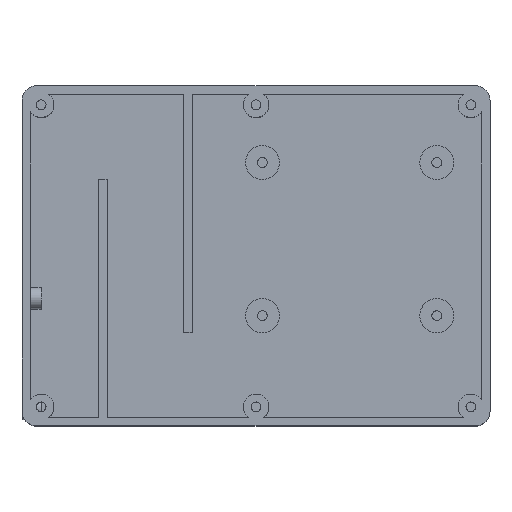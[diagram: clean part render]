
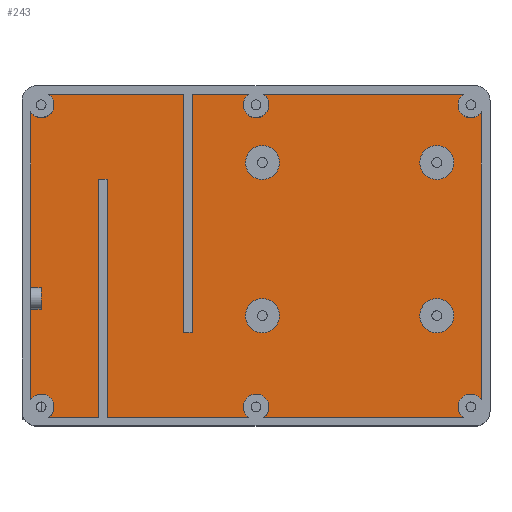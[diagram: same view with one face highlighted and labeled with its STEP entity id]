
A CAD part, top view. The second image highlights one B-rep face of the part: STEP entity #243.
In plain terms, the highlighted planar face has unit normal (0, 0, 1).
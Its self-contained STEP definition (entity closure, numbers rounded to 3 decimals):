
#190 = VERTEX_POINT('',#191);
#191 = CARTESIAN_POINT('',(4.,12.317,4.));
#197 = EDGE_CURVE('',#190,#198,#200,.T.);
#198 = VERTEX_POINT('',#199);
#199 = CARTESIAN_POINT('',(4.,147.683,4.));
#200 = LINE('',#201,#202);
#201 = CARTESIAN_POINT('',(4.,4.,4.));
#202 = VECTOR('',#203,1.);
#203 = DIRECTION('',(0.,1.,0.));
#243 = ADVANCED_FACE('',(#244,#439,#450,#461,#472),#483,.T.);
#244 = FACE_BOUND('',#245,.T.);
#245 = EDGE_LOOP('',(#246,#247,#256,#265,#273,#281,#289,#297,#305,#314,
    #323,#331,#340,#348,#357,#365,#374,#383,#391,#399,#407,#415,#423,
    #432));
#246 = ORIENTED_EDGE('',*,*,#197,.F.);
#247 = ORIENTED_EDGE('',*,*,#248,.F.);
#248 = EDGE_CURVE('',#249,#190,#251,.T.);
#249 = VERTEX_POINT('',#250);
#250 = CARTESIAN_POINT('',(15.,9.,4.));
#251 = CIRCLE('',#252,6.);
#252 = AXIS2_PLACEMENT_3D('',#253,#254,#255);
#253 = CARTESIAN_POINT('',(9.,9.,4.));
#254 = DIRECTION('',(0.,0.,1.));
#255 = DIRECTION('',(1.,0.,0.));
#256 = ORIENTED_EDGE('',*,*,#257,.F.);
#257 = EDGE_CURVE('',#258,#249,#260,.T.);
#258 = VERTEX_POINT('',#259);
#259 = CARTESIAN_POINT('',(12.317,4.,4.));
#260 = CIRCLE('',#261,6.);
#261 = AXIS2_PLACEMENT_3D('',#262,#263,#264);
#262 = CARTESIAN_POINT('',(9.,9.,4.));
#263 = DIRECTION('',(0.,0.,1.));
#264 = DIRECTION('',(1.,0.,0.));
#265 = ORIENTED_EDGE('',*,*,#266,.T.);
#266 = EDGE_CURVE('',#258,#267,#269,.T.);
#267 = VERTEX_POINT('',#268);
#268 = CARTESIAN_POINT('',(36.,4.,4.));
#269 = LINE('',#270,#271);
#270 = CARTESIAN_POINT('',(4.,4.,4.));
#271 = VECTOR('',#272,1.);
#272 = DIRECTION('',(1.,0.,0.));
#273 = ORIENTED_EDGE('',*,*,#274,.T.);
#274 = EDGE_CURVE('',#267,#275,#277,.T.);
#275 = VERTEX_POINT('',#276);
#276 = CARTESIAN_POINT('',(36.,116.,4.));
#277 = LINE('',#278,#279);
#278 = CARTESIAN_POINT('',(36.,4.,4.));
#279 = VECTOR('',#280,1.);
#280 = DIRECTION('',(0.,1.,0.));
#281 = ORIENTED_EDGE('',*,*,#282,.T.);
#282 = EDGE_CURVE('',#275,#283,#285,.T.);
#283 = VERTEX_POINT('',#284);
#284 = CARTESIAN_POINT('',(40.,116.,4.));
#285 = LINE('',#286,#287);
#286 = CARTESIAN_POINT('',(36.,116.,4.));
#287 = VECTOR('',#288,1.);
#288 = DIRECTION('',(1.,0.,0.));
#289 = ORIENTED_EDGE('',*,*,#290,.F.);
#290 = EDGE_CURVE('',#291,#283,#293,.T.);
#291 = VERTEX_POINT('',#292);
#292 = CARTESIAN_POINT('',(40.,4.,4.));
#293 = LINE('',#294,#295);
#294 = CARTESIAN_POINT('',(40.,4.,4.));
#295 = VECTOR('',#296,1.);
#296 = DIRECTION('',(0.,1.,0.));
#297 = ORIENTED_EDGE('',*,*,#298,.T.);
#298 = EDGE_CURVE('',#291,#299,#301,.T.);
#299 = VERTEX_POINT('',#300);
#300 = CARTESIAN_POINT('',(106.683,4.,4.));
#301 = LINE('',#302,#303);
#302 = CARTESIAN_POINT('',(4.,4.,4.));
#303 = VECTOR('',#304,1.);
#304 = DIRECTION('',(1.,0.,0.));
#305 = ORIENTED_EDGE('',*,*,#306,.F.);
#306 = EDGE_CURVE('',#307,#299,#309,.T.);
#307 = VERTEX_POINT('',#308);
#308 = CARTESIAN_POINT('',(116.,9.,4.));
#309 = CIRCLE('',#310,6.);
#310 = AXIS2_PLACEMENT_3D('',#311,#312,#313);
#311 = CARTESIAN_POINT('',(110.,9.,4.));
#312 = DIRECTION('',(0.,0.,1.));
#313 = DIRECTION('',(1.,0.,0.));
#314 = ORIENTED_EDGE('',*,*,#315,.F.);
#315 = EDGE_CURVE('',#316,#307,#318,.T.);
#316 = VERTEX_POINT('',#317);
#317 = CARTESIAN_POINT('',(113.317,4.,4.));
#318 = CIRCLE('',#319,6.);
#319 = AXIS2_PLACEMENT_3D('',#320,#321,#322);
#320 = CARTESIAN_POINT('',(110.,9.,4.));
#321 = DIRECTION('',(0.,0.,1.));
#322 = DIRECTION('',(1.,0.,0.));
#323 = ORIENTED_EDGE('',*,*,#324,.T.);
#324 = EDGE_CURVE('',#316,#325,#327,.T.);
#325 = VERTEX_POINT('',#326);
#326 = CARTESIAN_POINT('',(207.683,4.,4.));
#327 = LINE('',#328,#329);
#328 = CARTESIAN_POINT('',(4.,4.,4.));
#329 = VECTOR('',#330,1.);
#330 = DIRECTION('',(1.,0.,0.));
#331 = ORIENTED_EDGE('',*,*,#332,.F.);
#332 = EDGE_CURVE('',#333,#325,#335,.T.);
#333 = VERTEX_POINT('',#334);
#334 = CARTESIAN_POINT('',(216.,12.317,4.));
#335 = CIRCLE('',#336,6.);
#336 = AXIS2_PLACEMENT_3D('',#337,#338,#339);
#337 = CARTESIAN_POINT('',(211.,9.,4.));
#338 = DIRECTION('',(0.,0.,1.));
#339 = DIRECTION('',(1.,0.,0.));
#340 = ORIENTED_EDGE('',*,*,#341,.T.);
#341 = EDGE_CURVE('',#333,#342,#344,.T.);
#342 = VERTEX_POINT('',#343);
#343 = CARTESIAN_POINT('',(216.,147.683,4.));
#344 = LINE('',#345,#346);
#345 = CARTESIAN_POINT('',(216.,4.,4.));
#346 = VECTOR('',#347,1.);
#347 = DIRECTION('',(0.,1.,0.));
#348 = ORIENTED_EDGE('',*,*,#349,.F.);
#349 = EDGE_CURVE('',#350,#342,#352,.T.);
#350 = VERTEX_POINT('',#351);
#351 = CARTESIAN_POINT('',(207.683,156.,4.));
#352 = CIRCLE('',#353,6.);
#353 = AXIS2_PLACEMENT_3D('',#354,#355,#356);
#354 = CARTESIAN_POINT('',(211.,151.,4.));
#355 = DIRECTION('',(0.,0.,1.));
#356 = DIRECTION('',(1.,0.,0.));
#357 = ORIENTED_EDGE('',*,*,#358,.F.);
#358 = EDGE_CURVE('',#359,#350,#361,.T.);
#359 = VERTEX_POINT('',#360);
#360 = CARTESIAN_POINT('',(113.317,156.,4.));
#361 = LINE('',#362,#363);
#362 = CARTESIAN_POINT('',(4.,156.,4.));
#363 = VECTOR('',#364,1.);
#364 = DIRECTION('',(1.,0.,0.));
#365 = ORIENTED_EDGE('',*,*,#366,.F.);
#366 = EDGE_CURVE('',#367,#359,#369,.T.);
#367 = VERTEX_POINT('',#368);
#368 = CARTESIAN_POINT('',(116.,151.,4.));
#369 = CIRCLE('',#370,6.);
#370 = AXIS2_PLACEMENT_3D('',#371,#372,#373);
#371 = CARTESIAN_POINT('',(110.,151.,4.));
#372 = DIRECTION('',(0.,0.,1.));
#373 = DIRECTION('',(1.,0.,0.));
#374 = ORIENTED_EDGE('',*,*,#375,.F.);
#375 = EDGE_CURVE('',#376,#367,#378,.T.);
#376 = VERTEX_POINT('',#377);
#377 = CARTESIAN_POINT('',(106.683,156.,4.));
#378 = CIRCLE('',#379,6.);
#379 = AXIS2_PLACEMENT_3D('',#380,#381,#382);
#380 = CARTESIAN_POINT('',(110.,151.,4.));
#381 = DIRECTION('',(0.,0.,1.));
#382 = DIRECTION('',(1.,0.,0.));
#383 = ORIENTED_EDGE('',*,*,#384,.F.);
#384 = EDGE_CURVE('',#385,#376,#387,.T.);
#385 = VERTEX_POINT('',#386);
#386 = CARTESIAN_POINT('',(80.,156.,4.));
#387 = LINE('',#388,#389);
#388 = CARTESIAN_POINT('',(4.,156.,4.));
#389 = VECTOR('',#390,1.);
#390 = DIRECTION('',(1.,0.,0.));
#391 = ORIENTED_EDGE('',*,*,#392,.F.);
#392 = EDGE_CURVE('',#393,#385,#395,.T.);
#393 = VERTEX_POINT('',#394);
#394 = CARTESIAN_POINT('',(80.,44.,4.));
#395 = LINE('',#396,#397);
#396 = CARTESIAN_POINT('',(80.,44.,4.));
#397 = VECTOR('',#398,1.);
#398 = DIRECTION('',(0.,1.,0.));
#399 = ORIENTED_EDGE('',*,*,#400,.F.);
#400 = EDGE_CURVE('',#401,#393,#403,.T.);
#401 = VERTEX_POINT('',#402);
#402 = CARTESIAN_POINT('',(76.,44.,4.));
#403 = LINE('',#404,#405);
#404 = CARTESIAN_POINT('',(76.,44.,4.));
#405 = VECTOR('',#406,1.);
#406 = DIRECTION('',(1.,0.,0.));
#407 = ORIENTED_EDGE('',*,*,#408,.T.);
#408 = EDGE_CURVE('',#401,#409,#411,.T.);
#409 = VERTEX_POINT('',#410);
#410 = CARTESIAN_POINT('',(76.,156.,4.));
#411 = LINE('',#412,#413);
#412 = CARTESIAN_POINT('',(76.,44.,4.));
#413 = VECTOR('',#414,1.);
#414 = DIRECTION('',(0.,1.,0.));
#415 = ORIENTED_EDGE('',*,*,#416,.F.);
#416 = EDGE_CURVE('',#417,#409,#419,.T.);
#417 = VERTEX_POINT('',#418);
#418 = CARTESIAN_POINT('',(12.317,156.,4.));
#419 = LINE('',#420,#421);
#420 = CARTESIAN_POINT('',(4.,156.,4.));
#421 = VECTOR('',#422,1.);
#422 = DIRECTION('',(1.,0.,0.));
#423 = ORIENTED_EDGE('',*,*,#424,.F.);
#424 = EDGE_CURVE('',#425,#417,#427,.T.);
#425 = VERTEX_POINT('',#426);
#426 = CARTESIAN_POINT('',(15.,151.,4.));
#427 = CIRCLE('',#428,6.);
#428 = AXIS2_PLACEMENT_3D('',#429,#430,#431);
#429 = CARTESIAN_POINT('',(9.,151.,4.));
#430 = DIRECTION('',(0.,0.,1.));
#431 = DIRECTION('',(1.,0.,0.));
#432 = ORIENTED_EDGE('',*,*,#433,.F.);
#433 = EDGE_CURVE('',#198,#425,#434,.T.);
#434 = CIRCLE('',#435,6.);
#435 = AXIS2_PLACEMENT_3D('',#436,#437,#438);
#436 = CARTESIAN_POINT('',(9.,151.,4.));
#437 = DIRECTION('',(0.,0.,1.));
#438 = DIRECTION('',(1.,0.,0.));
#439 = FACE_BOUND('',#440,.T.);
#440 = EDGE_LOOP('',(#441));
#441 = ORIENTED_EDGE('',*,*,#442,.F.);
#442 = EDGE_CURVE('',#443,#443,#445,.T.);
#443 = VERTEX_POINT('',#444);
#444 = CARTESIAN_POINT('',(121.,52.,4.));
#445 = CIRCLE('',#446,8.);
#446 = AXIS2_PLACEMENT_3D('',#447,#448,#449);
#447 = CARTESIAN_POINT('',(113.,52.,4.));
#448 = DIRECTION('',(0.,0.,1.));
#449 = DIRECTION('',(1.,0.,0.));
#450 = FACE_BOUND('',#451,.T.);
#451 = EDGE_LOOP('',(#452));
#452 = ORIENTED_EDGE('',*,*,#453,.F.);
#453 = EDGE_CURVE('',#454,#454,#456,.T.);
#454 = VERTEX_POINT('',#455);
#455 = CARTESIAN_POINT('',(203.,52.,4.));
#456 = CIRCLE('',#457,8.);
#457 = AXIS2_PLACEMENT_3D('',#458,#459,#460);
#458 = CARTESIAN_POINT('',(195.,52.,4.));
#459 = DIRECTION('',(0.,0.,1.));
#460 = DIRECTION('',(1.,0.,0.));
#461 = FACE_BOUND('',#462,.T.);
#462 = EDGE_LOOP('',(#463));
#463 = ORIENTED_EDGE('',*,*,#464,.F.);
#464 = EDGE_CURVE('',#465,#465,#467,.T.);
#465 = VERTEX_POINT('',#466);
#466 = CARTESIAN_POINT('',(121.,124.,4.));
#467 = CIRCLE('',#468,8.);
#468 = AXIS2_PLACEMENT_3D('',#469,#470,#471);
#469 = CARTESIAN_POINT('',(113.,124.,4.));
#470 = DIRECTION('',(0.,0.,1.));
#471 = DIRECTION('',(1.,0.,0.));
#472 = FACE_BOUND('',#473,.T.);
#473 = EDGE_LOOP('',(#474));
#474 = ORIENTED_EDGE('',*,*,#475,.F.);
#475 = EDGE_CURVE('',#476,#476,#478,.T.);
#476 = VERTEX_POINT('',#477);
#477 = CARTESIAN_POINT('',(203.,124.,4.));
#478 = CIRCLE('',#479,8.);
#479 = AXIS2_PLACEMENT_3D('',#480,#481,#482);
#480 = CARTESIAN_POINT('',(195.,124.,4.));
#481 = DIRECTION('',(0.,0.,1.));
#482 = DIRECTION('',(1.,0.,0.));
#483 = PLANE('',#484);
#484 = AXIS2_PLACEMENT_3D('',#485,#486,#487);
#485 = CARTESIAN_POINT('',(4.,4.,4.));
#486 = DIRECTION('',(0.,0.,1.));
#487 = DIRECTION('',(1.,0.,0.));
